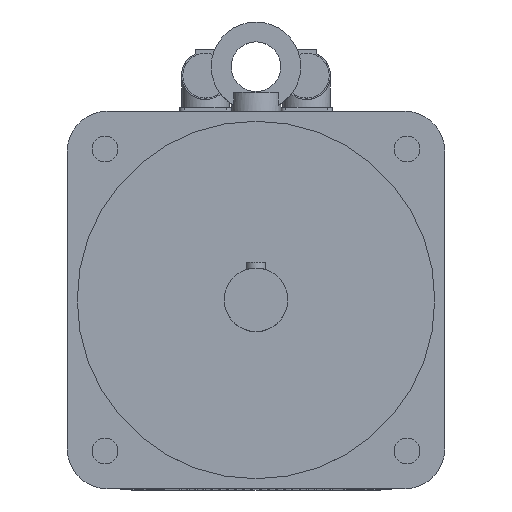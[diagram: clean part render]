
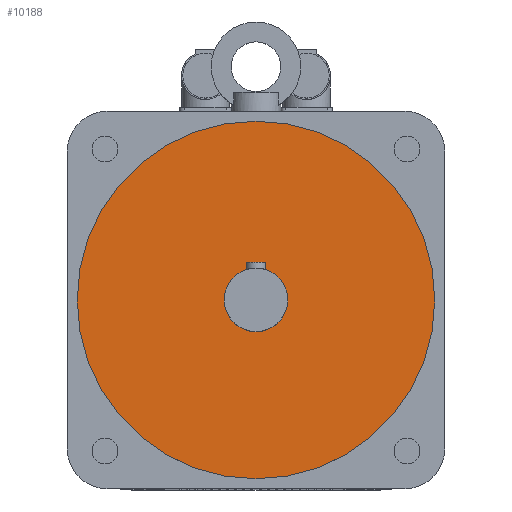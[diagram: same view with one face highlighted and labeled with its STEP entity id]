
A CAD part, top view. The second image highlights one B-rep face of the part: STEP entity #10188.
In plain terms, the highlighted planar face has unit normal (0, 0, 1).
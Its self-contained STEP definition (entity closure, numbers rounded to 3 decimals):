
#208=FACE_BOUND('',#973,.T.);
#290=FACE_OUTER_BOUND('',#972,.T.);
#972=EDGE_LOOP('',(#7169));
#973=EDGE_LOOP('',(#7170));
#1611=CIRCLE('',#10835,16.);
#1612=CIRCLE('',#10837,90.);
#4590=VERTEX_POINT('',#15520);
#4591=VERTEX_POINT('',#15523);
#5600=EDGE_CURVE('',#4590,#4590,#1611,.T.);
#5601=EDGE_CURVE('',#4591,#4591,#1612,.T.);
#7169=ORIENTED_EDGE('',*,*,#5601,.F.);
#7170=ORIENTED_EDGE('',*,*,#5600,.T.);
#9671=PLANE('',#10836);
#10188=ADVANCED_FACE('',(#290,#208),#9671,.T.);
#10835=AXIS2_PLACEMENT_3D('',#15521,#12180,#12181);
#10836=AXIS2_PLACEMENT_3D('',#15522,#12182,#12183);
#10837=AXIS2_PLACEMENT_3D('',#15524,#12184,#12185);
#12180=DIRECTION('center_axis',(0.,0.,-1.));
#12181=DIRECTION('ref_axis',(1.,0.,0.));
#12182=DIRECTION('center_axis',(0.,0.,1.));
#12183=DIRECTION('ref_axis',(1.,0.,0.));
#12184=DIRECTION('center_axis',(0.,0.,-1.));
#12185=DIRECTION('ref_axis',(1.,0.,0.));
#15520=CARTESIAN_POINT('',(0.,16.,333.));
#15521=CARTESIAN_POINT('Origin',(0.,0.,333.));
#15522=CARTESIAN_POINT('Origin',(0.,90.,333.));
#15523=CARTESIAN_POINT('',(0.,90.,333.));
#15524=CARTESIAN_POINT('Origin',(0.,0.,333.));
